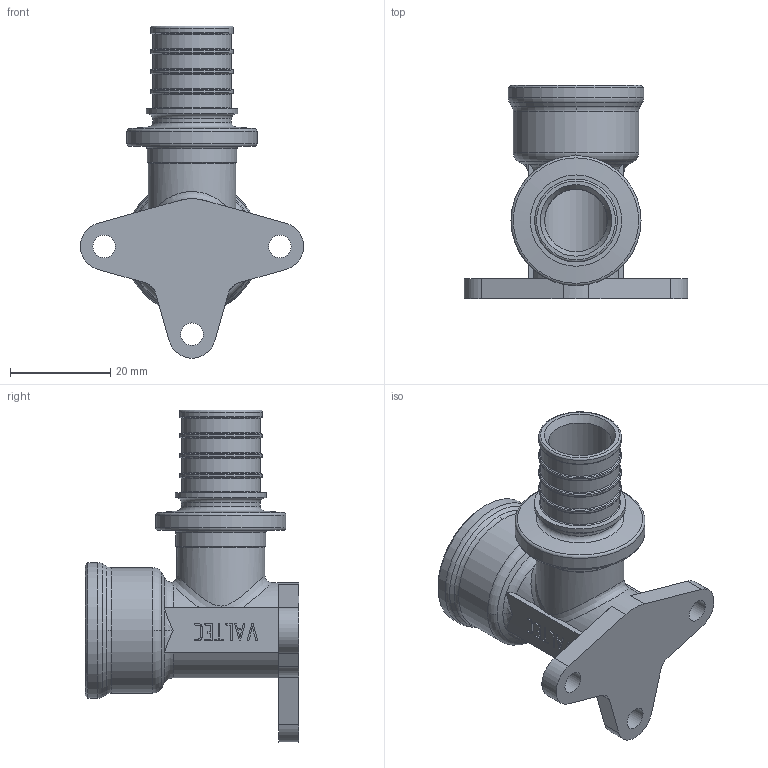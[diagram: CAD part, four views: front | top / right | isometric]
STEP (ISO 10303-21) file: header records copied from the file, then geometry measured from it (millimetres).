
FILE_DESCRIPTION(('STEP AP203'), '1');
FILE_NAME('ﾂﾐ.731244.001 - VTm.454.BG.002004 ﾂ鮏ⅱ鰀. 浯葢', '2024-01-24T07:18:07', ('IT'), ('VESTA'), 'C3D Converter', 'C3D Toolkit', '');
FILE_SCHEMA(('CONFIG_CONTROL_DESIGN'));
Length unit declared in the file: millimetre
Products named in the file (1): ВР.731244.001
Bounding box: 44.46 x 42.5 x 66.13 mm (x, y, z)
Surface area: 10904.4 mm2 (no closed solid volume)
Topology: 0 solids, 1 shells, 329 faces, 878 edges, 565 vertices
Faces by surface type: extrusion 142, plane 114, torus 32, cylinder 30, cone 10, bspline 1
Full cylindrical faces by diameter (mm): 4.5 x3, 12.5 x1, 14 x1, 15.7 x5, 16.5 x4, 17.5 x1, 17.9 x1, 18.2 x1, 18.632 x1, 25 x1, 25.9 x1, 27 x1
Entity records: 11598 total; most frequent: CARTESIAN_POINT 4097, ORIENTED_EDGE 1658, DIRECTION 1129, EDGE_CURVE 830, VECTOR 567, VERTEX_POINT 567, B_SPLINE_CURVE_WITH_KNOTS 452, LINE 425
